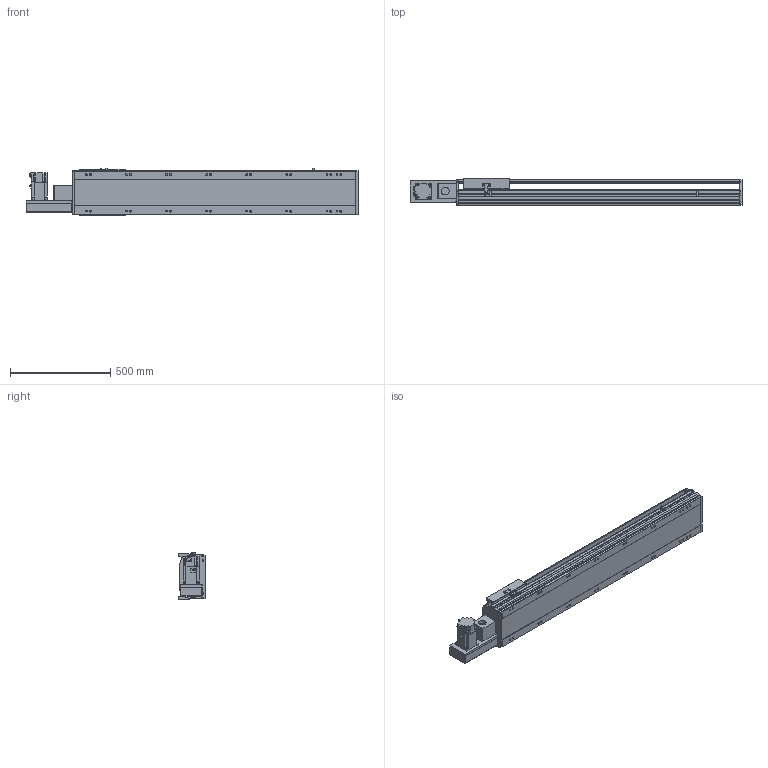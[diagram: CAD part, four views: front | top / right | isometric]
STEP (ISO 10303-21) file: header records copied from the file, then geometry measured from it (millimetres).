
FILE_DESCRIPTION(/* description */ ('STEP AP214'),/* implementation_level */ '2;1');
FILE_NAME(/* name */ 'PBS220-P40-S1050-L-T75-C1-N(0)',/* time_stamp */ '2022-06-11T09:55:48+02:00',/* author */ ('License CC BY-ND 4.0'),/* organization */ ('CADENAS'),/* preprocessor_version */ 'ST-DEVELOPER v18.102',/* originating_system */ 'PARTsolutions',/* authorisation */ ' ');
FILE_SCHEMA (('AUTOMOTIVE_DESIGN {1 0 10303 214 3 1 1}'));
Length unit declared in the file: millimetre
Products named in the file (7): PBS220-P40-S1050-L-T75-C1-N(0); PBS220_sensor; PBS220_plant; PBS220_sliser; T75-p1; PBS220T-L_motors; PBS220-S1050()_body
Assembly tree (8 placements, depth 2):
  PBS220-P40-S1050-L-T75-C1-N(0)
    PBS220_sensor  x3
    PBS220_plant
    PBS220_sliser
    T75-p1
    PBS220T-L_motors
    PBS220-S1050()_body
Bounding box: 1656 x 134 x 238.5 mm (x, y, z)
Volume: 22125657.5 mm3; surface area: 2159215.1 mm2
Topology: 8 solids, 8 shells, 914 faces, 2396 edges, 1558 vertices
Faces by surface type: plane 598, cylinder 276, cone 40
Full cylindrical faces by diameter (mm): 2.013 x4, 4.5 x14, 4.917 x4, 6 x7, 6.647 x8, 8 x10, 8.376 x16, 8.5 x16, 10 x6, 14 x16, 38 x2, 40 x1, 70 x1
Entity records: 25629 total; most frequent: CARTESIAN_POINT 4492, DIRECTION 4455, ORIENTED_EDGE 4106, EDGE_CURVE 2053, AXIS2_PLACEMENT_3D 1555, VERTEX_POINT 1416, LINE 1345, VECTOR 1345
